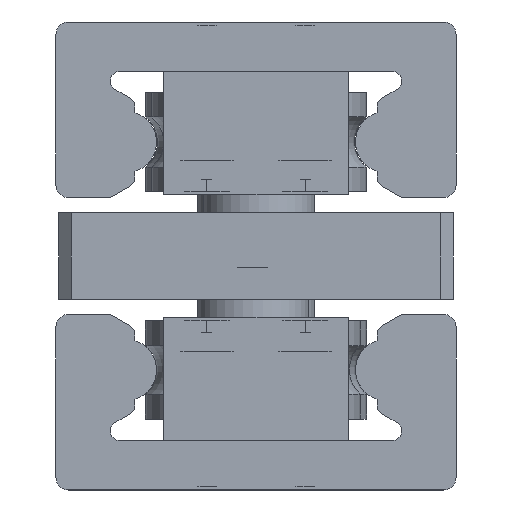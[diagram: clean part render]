
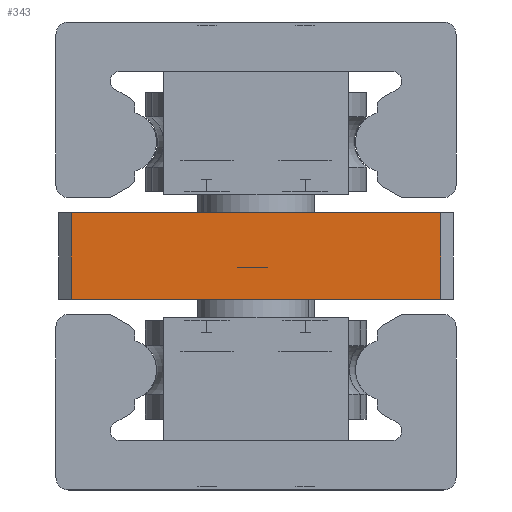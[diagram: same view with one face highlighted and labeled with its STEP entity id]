
A CAD part, left-side view. The second image highlights one B-rep face of the part: STEP entity #343.
In plain terms, the highlighted planar face has unit normal (-1, 0, 0).
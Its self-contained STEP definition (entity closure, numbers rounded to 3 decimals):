
#343 = ADVANCED_FACE ( 'NONE', ( #6805 ), #433, .F. ) ;
#433 = PLANE ( 'NONE',  #1455 ) ;
#474 = CARTESIAN_POINT ( 'NONE',  ( 0., 30., 11.5 ) ) ;
#756 = VERTEX_POINT ( 'NONE', #474 ) ;
#993 = VECTOR ( 'NONE', #4888, 1000. ) ;
#1096 = ORIENTED_EDGE ( 'NONE', *, *, #2454, .F. ) ;
#1161 = DIRECTION ( 'NONE',  ( 0., -1., 0. ) ) ;
#1315 = VECTOR ( 'NONE', #6130, 1000. ) ;
#1455 = AXIS2_PLACEMENT_3D ( 'NONE', #1872, #3275, #4751 ) ;
#1692 = CARTESIAN_POINT ( 'NONE',  ( 0., 30., 25.5 ) ) ;
#1867 = VERTEX_POINT ( 'NONE', #1692 ) ;
#1872 = CARTESIAN_POINT ( 'NONE',  ( 0., 0., 18.5 ) ) ;
#1932 = ORIENTED_EDGE ( 'NONE', *, *, #4677, .F. ) ;
#2178 = VERTEX_POINT ( 'NONE', #3514 ) ;
#2354 = EDGE_CURVE ( 'NONE', #2178, #756, #2615, .T. ) ;
#2426 = CARTESIAN_POINT ( 'NONE',  ( 0., 32., 25.5 ) ) ;
#2454 = EDGE_CURVE ( 'NONE', #756, #1867, #6995, .T. ) ;
#2615 = LINE ( 'NONE', #3176, #4267 ) ;
#2688 = EDGE_LOOP ( 'NONE', ( #1096, #6774, #1932, #5326 ) ) ;
#2872 = CARTESIAN_POINT ( 'NONE',  ( 0., -30., 25.5 ) ) ;
#3176 = CARTESIAN_POINT ( 'NONE',  ( 0., -32., 11.5 ) ) ;
#3263 = LINE ( 'NONE', #2426, #3447 ) ;
#3275 = DIRECTION ( 'NONE',  ( 1., 0., 0. ) ) ;
#3447 = VECTOR ( 'NONE', #1161, 1000. ) ;
#3514 = CARTESIAN_POINT ( 'NONE',  ( 0., -30., 11.5 ) ) ;
#4267 = VECTOR ( 'NONE', #5447, 1000. ) ;
#4658 = LINE ( 'NONE', #7613, #1315 ) ;
#4677 = EDGE_CURVE ( 'NONE', #4903, #2178, #4658, .T. ) ;
#4751 = DIRECTION ( 'NONE',  ( 0., 0., -1. ) ) ;
#4888 = DIRECTION ( 'NONE',  ( 0., 0., 1. ) ) ;
#4903 = VERTEX_POINT ( 'NONE', #2872 ) ;
#5326 = ORIENTED_EDGE ( 'NONE', *, *, #7059, .F. ) ;
#5447 = DIRECTION ( 'NONE',  ( 0., 1., 0. ) ) ;
#6130 = DIRECTION ( 'NONE',  ( 0., 0., -1. ) ) ;
#6774 = ORIENTED_EDGE ( 'NONE', *, *, #2354, .F. ) ;
#6805 = FACE_OUTER_BOUND ( 'NONE', #2688, .T. ) ;
#6995 = LINE ( 'NONE', #9040, #993 ) ;
#7059 = EDGE_CURVE ( 'NONE', #1867, #4903, #3263, .T. ) ;
#7613 = CARTESIAN_POINT ( 'NONE',  ( 0., -30., 15. ) ) ;
#9040 = CARTESIAN_POINT ( 'NONE',  ( 0., 30., 22. ) ) ;
